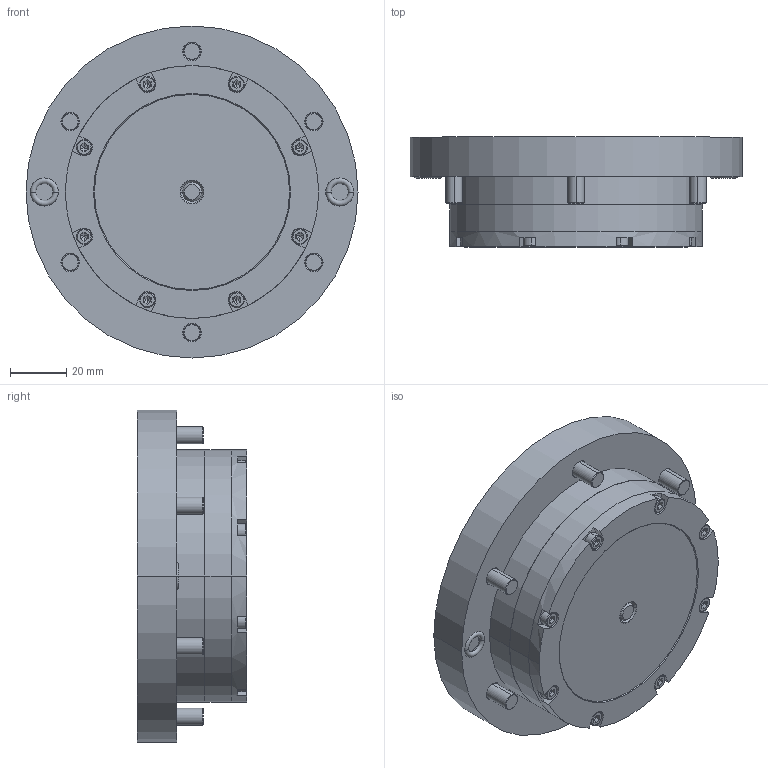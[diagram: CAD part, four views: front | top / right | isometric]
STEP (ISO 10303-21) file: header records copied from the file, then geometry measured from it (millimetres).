
FILE_DESCRIPTION((''),'2;1');
FILE_NAME('SIM_ZERO_PNT_M_118_ASM','2023-05-07T13:06:34',('Design 2'),(''),'CREO PARAMETRIC BY PTC INC, 2020053','CREO PARAMETRIC BY PTC INC, 2020053','');
FILE_SCHEMA(('CONFIG_CONTROL_DESIGN'));
Length unit declared in the file: millimetre
Products named in the file (9): 01A-HOUSING-ZERO_PNT_C_MDL_; 03A-COVER__; GRUB_SCR_HEX_SOC_M6X05; 01B-O-RING-ID_6XCS__; ISHCS03X08; GRUB_SCR_HEX_SOC_M8X05; 01C-PLASTIC-CAP__; ISHCS06X16; SIM_ZERO_PNT_M_118_ASM
Assembly tree (27 placements, depth 2):
  SIM_ZERO_PNT_M_118_ASM
    01A-HOUSING-ZERO_PNT_C_MDL_
    03A-COVER__
    GRUB_SCR_HEX_SOC_M6X05  x2
    01B-O-RING-ID_6XCS__  x2
    ISHCS03X08  x8
    GRUB_SCR_HEX_SOC_M8X05
    01C-PLASTIC-CAP__  x6
    ISHCS06X16  x6
Bounding box: 118 x 39 x 118 mm (x, y, z)
Volume: 300867.6 mm3; surface area: 60514.3 mm2
Topology: 27 solids, 93 shells, 1008 faces, 3347 edges, 2501 vertices
Faces by surface type: plane 434, cylinder 322, cone 178, torus 62, sphere 12
Entity records: 22273 total; most frequent: CARTESIAN_POINT 5067, DIRECTION 3417, ORIENTED_EDGE 2957, EDGE_CURVE 2135, VERTEX_POINT 1804, VECTOR 1613, LINE 1613, AXIS2_PLACEMENT_3D 902
